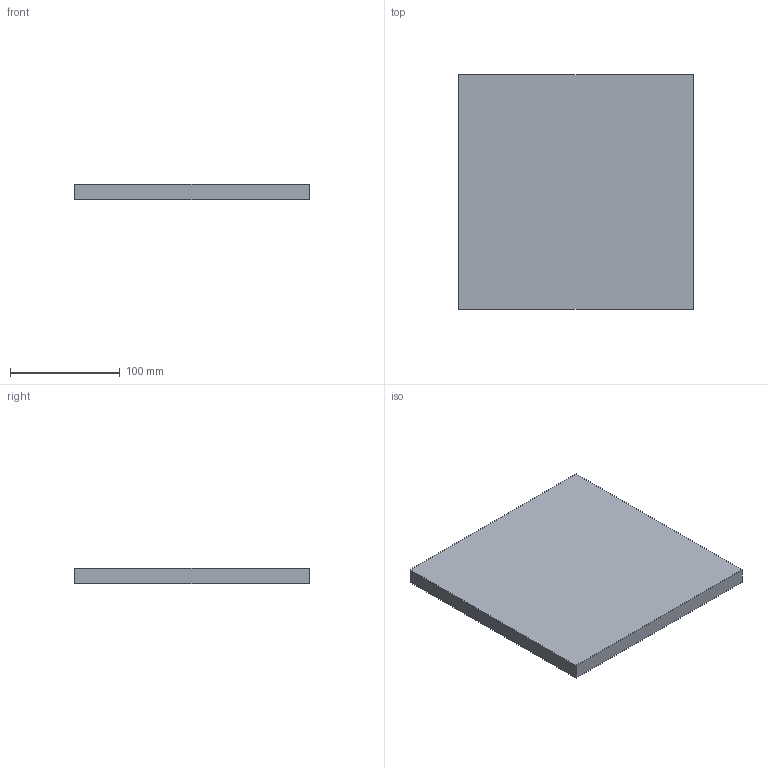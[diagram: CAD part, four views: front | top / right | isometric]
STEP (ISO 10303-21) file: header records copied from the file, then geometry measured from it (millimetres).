
FILE_DESCRIPTION (( 'STEP AP203' ), '1' );
FILE_NAME ('M15FPF-EU3.STEP', '2021-06-10T08:11:17', ( '' ), ( '' ), 'SwSTEP 2.0', 'SolidWorks 2019', '' );
FILE_SCHEMA (( 'CONFIG_CONTROL_DESIGN' ));
Length unit declared in the file: millimetre
Products named in the file (1): M15FPF-EU3
Bounding box: 214 x 214 x 14 mm (x, y, z)
Volume: 641144 mm3; surface area: 103576 mm2
Topology: 1 solids, 1 shells, 6 faces, 12 edges, 8 vertices
Faces by surface type: plane 6
Entity records: 233 total; most frequent: CARTESIAN_POINT 27, DIRECTION 26, ORIENTED_EDGE 24, VECTOR 12, EDGE_CURVE 12, LINE 12, PERSON_AND_ORGANIZATION 8, VERTEX_POINT 8
